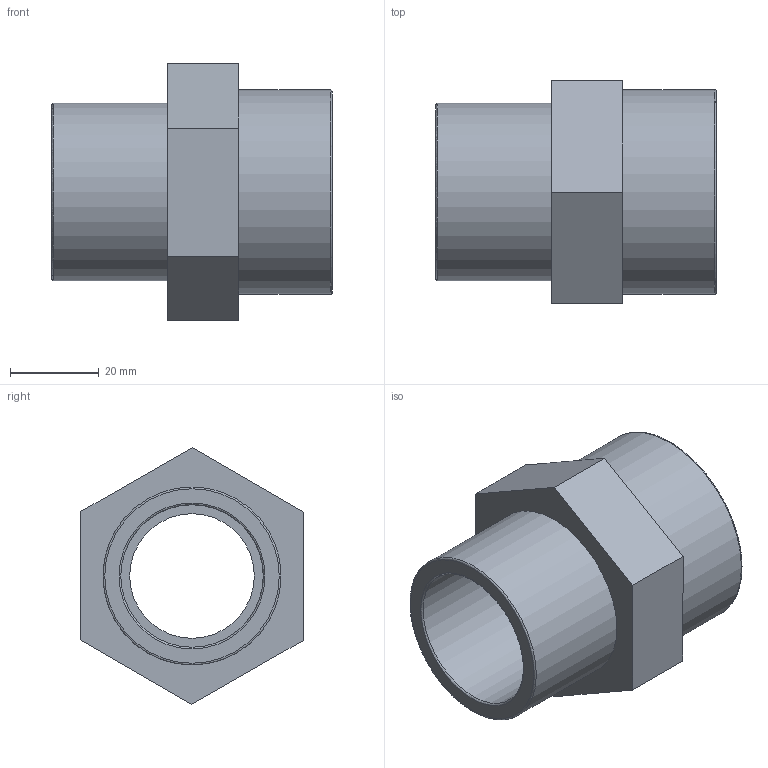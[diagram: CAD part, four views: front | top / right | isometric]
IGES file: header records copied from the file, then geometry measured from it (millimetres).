
Global section: file name: 050302040013.ipt; native system: Autodesk Inventor 2015; preprocessor: unknown; author: KIM; date: 20171207.164406; units: millimetre
Bounding box: 63 x 50.08 x 57.73 mm (x, y, z)
Volume: 44534.9 mm3; surface area: 18807.3 mm2
Topology: 1 solids, 1 shells, 21 faces, 55 edges, 40 vertices
Faces by surface type: plane 12, revolution 7, cylinder 2
Full cylindrical faces by diameter (mm): 40 x1, 46 x1
